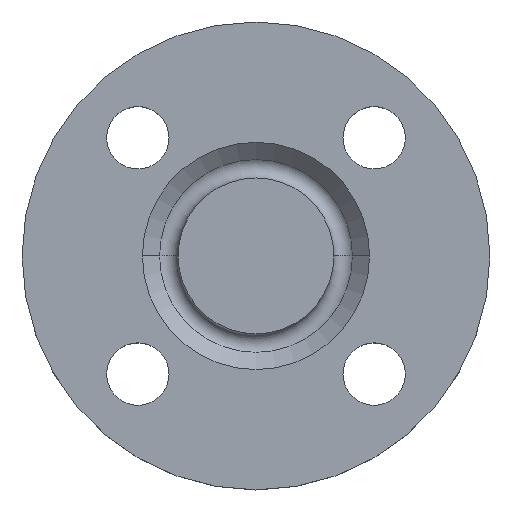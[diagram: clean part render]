
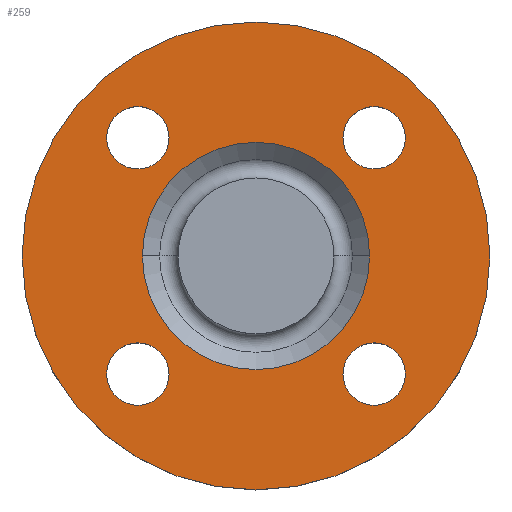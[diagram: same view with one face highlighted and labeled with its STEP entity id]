
A CAD part, top view. The second image highlights one B-rep face of the part: STEP entity #259.
In plain terms, the highlighted planar face has unit normal (0, 0, 1).
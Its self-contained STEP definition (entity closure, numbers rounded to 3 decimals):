
#2 = EDGE_LOOP ( 'NONE', ( #302, #304 ) ) ;
#3 = VERTEX_POINT ( 'NONE', #15 ) ;
#13 = VERTEX_POINT ( 'NONE', #18 ) ;
#14 = EDGE_LOOP ( 'NONE', ( #328, #329 ) ) ;
#15 = CARTESIAN_POINT ( 'NONE',  ( 19.517, 26.517, -2. ) ) ;
#18 = CARTESIAN_POINT ( 'NONE',  ( 52.5, 0., -2. ) ) ;
#19 = DIRECTION ( 'NONE',  ( 1., 0., 0. ) ) ;
#22 = EDGE_CURVE ( 'NONE', #388, #399, #419, .T. ) ;
#30 = EDGE_CURVE ( 'NONE', #386, #420, #438, .T. ) ;
#31 = CARTESIAN_POINT ( 'NONE',  ( -26.517, 26.517, -2. ) ) ;
#32 = DIRECTION ( 'NONE',  ( 0., 0., -1. ) ) ;
#33 = DIRECTION ( 'NONE',  ( 1., 0., 0. ) ) ;
#34 = AXIS2_PLACEMENT_3D ( 'NONE', #445, #444, #451 ) ;
#38 = CARTESIAN_POINT ( 'NONE',  ( 0., 0., -2. ) ) ;
#39 = DIRECTION ( 'NONE',  ( 0., 0., -1. ) ) ;
#40 = DIRECTION ( 'NONE',  ( -1., 0., 0. ) ) ;
#63 = EDGE_CURVE ( 'NONE', #440, #374, #83, .T. ) ;
#70 = CIRCLE ( 'NONE', #34, 7. ) ;
#83 = CIRCLE ( 'NONE', #253, 25.5 ) ;
#87 = AXIS2_PLACEMENT_3D ( 'NONE', #283, #284, #285 ) ;
#108 = CARTESIAN_POINT ( 'NONE',  ( -52.5, 0., -2. ) ) ;
#119 = AXIS2_PLACEMENT_3D ( 'NONE', #540, #543, #544 ) ;
#136 = CIRCLE ( 'NONE', #119, 25.5 ) ;
#139 = VERTEX_POINT ( 'NONE', #108 ) ;
#140 = CARTESIAN_POINT ( 'NONE',  ( 26.517, -26.517, -2. ) ) ;
#147 = DIRECTION ( 'NONE',  ( 0., 0., -1. ) ) ;
#154 = DIRECTION ( 'NONE',  ( 1., 0., 0. ) ) ;
#160 = DIRECTION ( 'NONE',  ( 0., 0., -1. ) ) ;
#161 = CARTESIAN_POINT ( 'NONE',  ( -26.517, 26.517, -2. ) ) ;
#166 = DIRECTION ( 'NONE',  ( 1., 0., 0. ) ) ;
#182 = AXIS2_PLACEMENT_3D ( 'NONE', #140, #147, #154 ) ;
#184 = CIRCLE ( 'NONE', #182, 7. ) ;
#232 = EDGE_LOOP ( 'NONE', ( #330, #336 ) ) ;
#245 = AXIS2_PLACEMENT_3D ( 'NONE', #584, #595, #586 ) ;
#252 = CIRCLE ( 'NONE', #245, 7. ) ;
#253 = AXIS2_PLACEMENT_3D ( 'NONE', #38, #39, #40 ) ;
#259 = ADVANCED_FACE ( 'NONE', ( #274, #276, #277, #279, #280, #281 ), #282, .T. ) ;
#274 = FACE_BOUND ( 'NONE', #309, .T. ) ;
#276 = FACE_BOUND ( 'NONE', #404, .T. ) ;
#277 = FACE_BOUND ( 'NONE', #2, .T. ) ;
#279 = FACE_BOUND ( 'NONE', #428, .T. ) ;
#280 = FACE_BOUND ( 'NONE', #14, .T. ) ;
#281 = FACE_OUTER_BOUND ( 'NONE', #232, .T. ) ;
#282 = PLANE ( 'NONE',  #87 ) ;
#283 = CARTESIAN_POINT ( 'NONE',  ( 52.5, 0., -2. ) ) ;
#284 = DIRECTION ( 'NONE',  ( 0., 0., 1. ) ) ;
#285 = DIRECTION ( 'NONE',  ( 1., 0., 0. ) ) ;
#295 = ORIENTED_EDGE ( 'NONE', *, *, #485, .T. ) ;
#296 = ORIENTED_EDGE ( 'NONE', *, *, #605, .T. ) ;
#297 = ORIENTED_EDGE ( 'NONE', *, *, #308, .T. ) ;
#298 = ORIENTED_EDGE ( 'NONE', *, *, #22, .T. ) ;
#302 = ORIENTED_EDGE ( 'NONE', *, *, #30, .T. ) ;
#304 = ORIENTED_EDGE ( 'NONE', *, *, #616, .T. ) ;
#305 = ORIENTED_EDGE ( 'NONE', *, *, #511, .T. ) ;
#306 = CIRCLE ( 'NONE', #606, 7. ) ;
#307 = EDGE_CURVE ( 'NONE', #139, #13, #317, .T. ) ;
#308 = EDGE_CURVE ( 'NONE', #399, #388, #70, .T. ) ;
#309 = EDGE_LOOP ( 'NONE', ( #295, #296 ) ) ;
#313 = AXIS2_PLACEMENT_3D ( 'NONE', #576, #581, #591 ) ;
#315 = CIRCLE ( 'NONE', #313, 7. ) ;
#317 = CIRCLE ( 'NONE', #454, 52.5 ) ;
#321 = ORIENTED_EDGE ( 'NONE', *, *, #322, .T. ) ;
#322 = EDGE_CURVE ( 'NONE', #3, #472, #306, .T. ) ;
#328 = ORIENTED_EDGE ( 'NONE', *, *, #63, .T. ) ;
#329 = ORIENTED_EDGE ( 'NONE', *, *, #443, .T. ) ;
#330 = ORIENTED_EDGE ( 'NONE', *, *, #375, .F. ) ;
#336 = ORIENTED_EDGE ( 'NONE', *, *, #307, .F. ) ;
#374 = VERTEX_POINT ( 'NONE', #505 ) ;
#375 = EDGE_CURVE ( 'NONE', #13, #139, #519, .T. ) ;
#386 = VERTEX_POINT ( 'NONE', #509 ) ;
#388 = VERTEX_POINT ( 'NONE', #510 ) ;
#399 = VERTEX_POINT ( 'NONE', #513 ) ;
#400 = VERTEX_POINT ( 'NONE', #514 ) ;
#404 = EDGE_LOOP ( 'NONE', ( #297, #298 ) ) ;
#411 = CIRCLE ( 'NONE', #542, 7. ) ;
#415 = AXIS2_PLACEMENT_3D ( 'NONE', #602, #603, #19 ) ;
#419 = CIRCLE ( 'NONE', #415, 7. ) ;
#420 = VERTEX_POINT ( 'NONE', #526 ) ;
#428 = EDGE_LOOP ( 'NONE', ( #305, #321 ) ) ;
#437 = CARTESIAN_POINT ( 'NONE',  ( 0., 0., -2. ) ) ;
#438 = CIRCLE ( 'NONE', #562, 7. ) ;
#439 = DIRECTION ( 'NONE',  ( 0., 0., -1. ) ) ;
#440 = VERTEX_POINT ( 'NONE', #537 ) ;
#441 = VERTEX_POINT ( 'NONE', #538 ) ;
#443 = EDGE_CURVE ( 'NONE', #374, #440, #136, .T. ) ;
#444 = DIRECTION ( 'NONE',  ( 0., 0., -1. ) ) ;
#445 = CARTESIAN_POINT ( 'NONE',  ( -26.517, -26.517, -2. ) ) ;
#447 = DIRECTION ( 'NONE',  ( -1., 0., 0. ) ) ;
#451 = DIRECTION ( 'NONE',  ( 1., 0., 0. ) ) ;
#454 = AXIS2_PLACEMENT_3D ( 'NONE', #437, #439, #447 ) ;
#460 = CARTESIAN_POINT ( 'NONE',  ( 26.517, 26.517, -2. ) ) ;
#461 = DIRECTION ( 'NONE',  ( 0., 0., -1. ) ) ;
#462 = DIRECTION ( 'NONE',  ( 1., 0., 0. ) ) ;
#472 = VERTEX_POINT ( 'NONE', #570 ) ;
#485 = EDGE_CURVE ( 'NONE', #441, #400, #252, .T. ) ;
#495 = AXIS2_PLACEMENT_3D ( 'NONE', #506, #507, #508 ) ;
#505 = CARTESIAN_POINT ( 'NONE',  ( -25.5, 0., -2. ) ) ;
#506 = CARTESIAN_POINT ( 'NONE',  ( 0., 0., -2. ) ) ;
#507 = DIRECTION ( 'NONE',  ( 0., 0., -1. ) ) ;
#508 = DIRECTION ( 'NONE',  ( -1., 0., 0. ) ) ;
#509 = CARTESIAN_POINT ( 'NONE',  ( -19.517, 26.517, -2. ) ) ;
#510 = CARTESIAN_POINT ( 'NONE',  ( -33.517, -26.517, -2. ) ) ;
#511 = EDGE_CURVE ( 'NONE', #472, #3, #315, .T. ) ;
#513 = CARTESIAN_POINT ( 'NONE',  ( -19.517, -26.517, -2. ) ) ;
#514 = CARTESIAN_POINT ( 'NONE',  ( 19.517, -26.517, -2. ) ) ;
#519 = CIRCLE ( 'NONE', #495, 52.5 ) ;
#526 = CARTESIAN_POINT ( 'NONE',  ( -33.517, 26.517, -2. ) ) ;
#537 = CARTESIAN_POINT ( 'NONE',  ( 25.5, 0., -2. ) ) ;
#538 = CARTESIAN_POINT ( 'NONE',  ( 33.517, -26.517, -2. ) ) ;
#540 = CARTESIAN_POINT ( 'NONE',  ( 0., 0., -2. ) ) ;
#542 = AXIS2_PLACEMENT_3D ( 'NONE', #161, #160, #166 ) ;
#543 = DIRECTION ( 'NONE',  ( 0., 0., -1. ) ) ;
#544 = DIRECTION ( 'NONE',  ( -1., 0., 0. ) ) ;
#562 = AXIS2_PLACEMENT_3D ( 'NONE', #31, #32, #33 ) ;
#570 = CARTESIAN_POINT ( 'NONE',  ( 33.517, 26.517, -2. ) ) ;
#576 = CARTESIAN_POINT ( 'NONE',  ( 26.517, 26.517, -2. ) ) ;
#581 = DIRECTION ( 'NONE',  ( 0., 0., -1. ) ) ;
#584 = CARTESIAN_POINT ( 'NONE',  ( 26.517, -26.517, -2. ) ) ;
#586 = DIRECTION ( 'NONE',  ( 1., 0., 0. ) ) ;
#591 = DIRECTION ( 'NONE',  ( 1., 0., 0. ) ) ;
#595 = DIRECTION ( 'NONE',  ( 0., 0., -1. ) ) ;
#602 = CARTESIAN_POINT ( 'NONE',  ( -26.517, -26.517, -2. ) ) ;
#603 = DIRECTION ( 'NONE',  ( 0., 0., -1. ) ) ;
#605 = EDGE_CURVE ( 'NONE', #400, #441, #184, .T. ) ;
#606 = AXIS2_PLACEMENT_3D ( 'NONE', #460, #461, #462 ) ;
#616 = EDGE_CURVE ( 'NONE', #420, #386, #411, .T. ) ;
